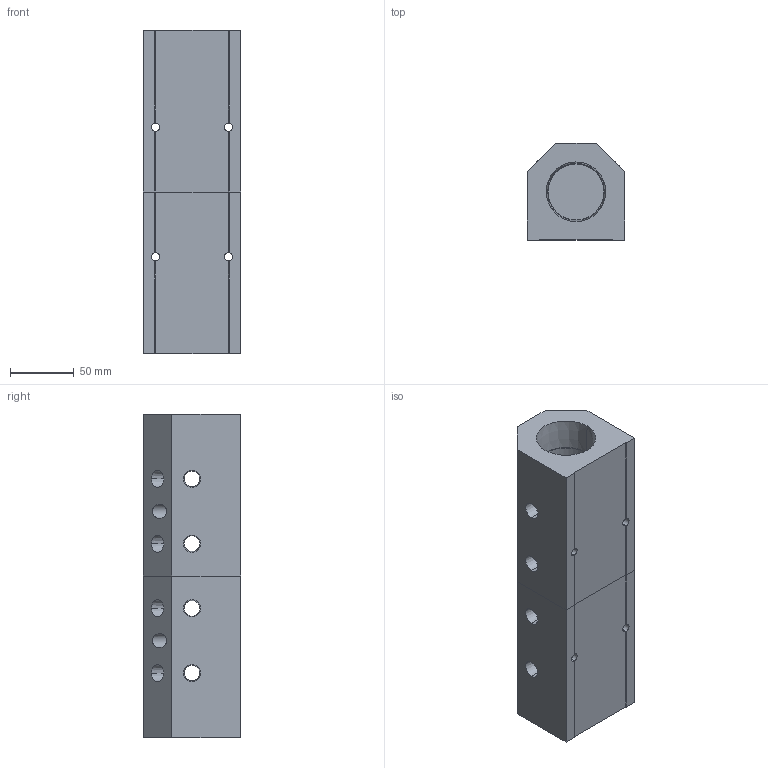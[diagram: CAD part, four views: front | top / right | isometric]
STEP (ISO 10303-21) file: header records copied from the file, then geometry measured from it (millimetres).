
FILE_DESCRIPTION (( 'STEP AP214' ), '1' );
FILE_NAME ('ALM4ABCDE-N4N24-254RB.step', '2022-02-07T07:52:02', ( '' ), ( '' ), 'SwSTEP 2.0', 'SolidWorks 2020', '' );
FILE_SCHEMA (( 'AUTOMOTIVE_DESIGN' ));
Length unit declared in the file: millimetre
Products named in the file (1): ALM4ABCDE-N4N24-254RB
Bounding box: 76.2 x 76.2 x 254 mm (x, y, z)
Volume: 899539.3 mm3; surface area: 140560.4 mm2
Topology: 2 solids, 2 shells, 401 faces, 1071 edges, 706 vertices
Faces by surface type: plane 284, bspline 53, cone 44, cylinder 20
Entity records: 21553 total; most frequent: CARTESIAN_POINT 8024, ORIENTED_EDGE 2142, DIRECTION 1687, EDGE_CURVE 1071, LINE 829, VECTOR 829, VERTEX_POINT 706, EDGE_LOOP 481
